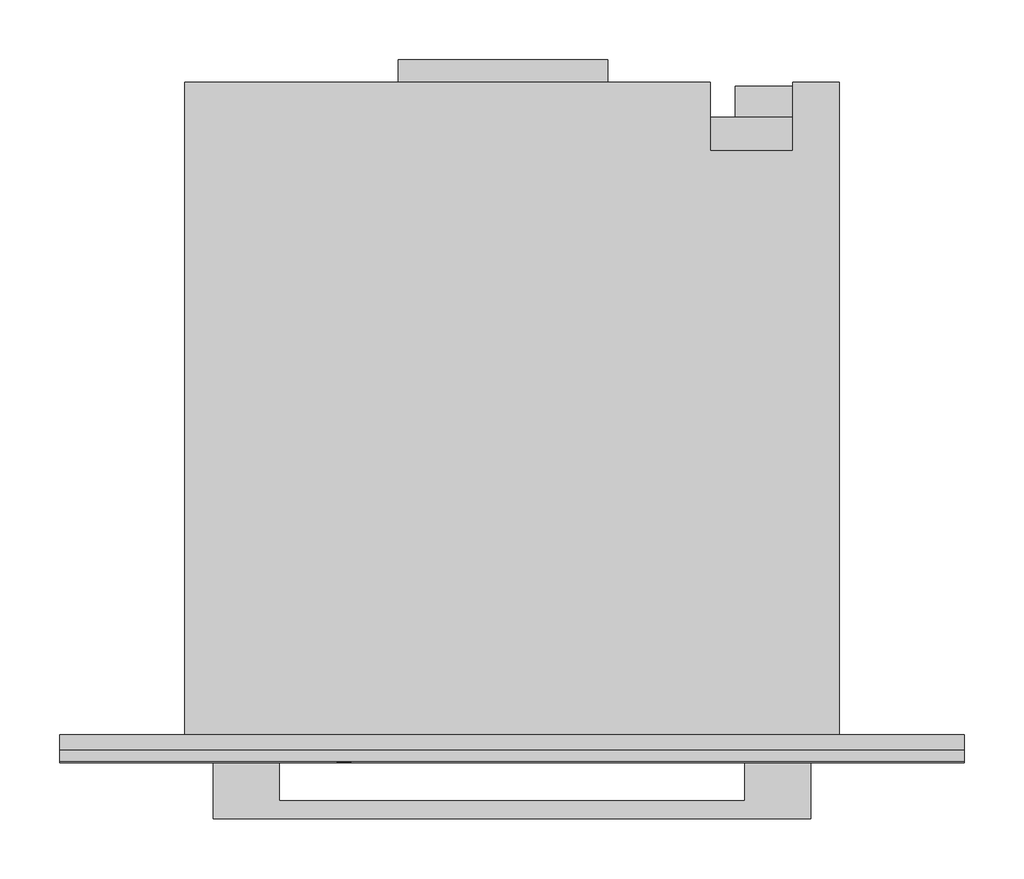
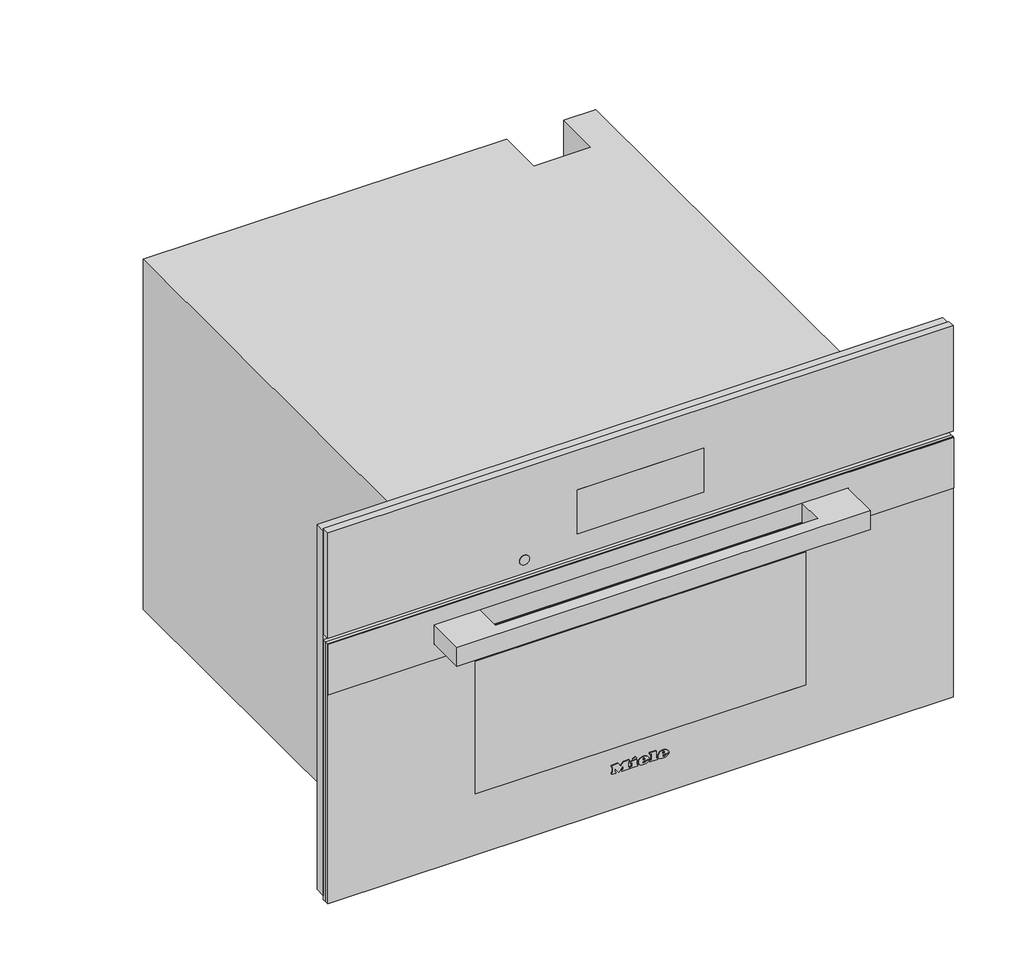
# Not in any storey: 1 proxy.
"""IFC4 building model written with IfcOpenShell, lengths in millimetres."""

from ifc_helpers import new_model, si_unit, origin, place, context, project, spatial, transform, mapped, element, save
from components import specialty_equipment_35e1a356

model = new_model("IFC4")

# Units and contexts
model_context = context("Model", 3, world=origin())
ifc_project = project(units=[si_unit("LENGTHUNIT", "METRE", prefix="MILLI")], contexts=[model_context])

# Site, building
site = spatial("IfcSite", under=ifc_project)
building = spatial("IfcBuilding", under=site)

# Proxy
placement = place(None, origin())
specialty_equipment_shape = specialty_equipment_35e1a356(model_context)
element("IfcBuildingElementProxy", 1, Name="11788400_BR_DGC7870_EDST-CLST : 23787042_BR_11788400_DGC7870_EDST-CLST", ObjectType="11788400_BR_DGC7870_EDST-CLST : 23787042_BR_11788400_DGC7870_EDST-CLST", at=placement, inside=building, context=model_context, shape_type="MappedRepresentation", body=[
    mapped(specialty_equipment_shape, transform((0.0, 0.0, 0.0), x_axis=(1.0, 0.0, 0.0), y_axis=(0.0, 1.0, 0.0), z_axis=(0.0, 0.0, 1.0))),
])

save(model, "model.ifc")
